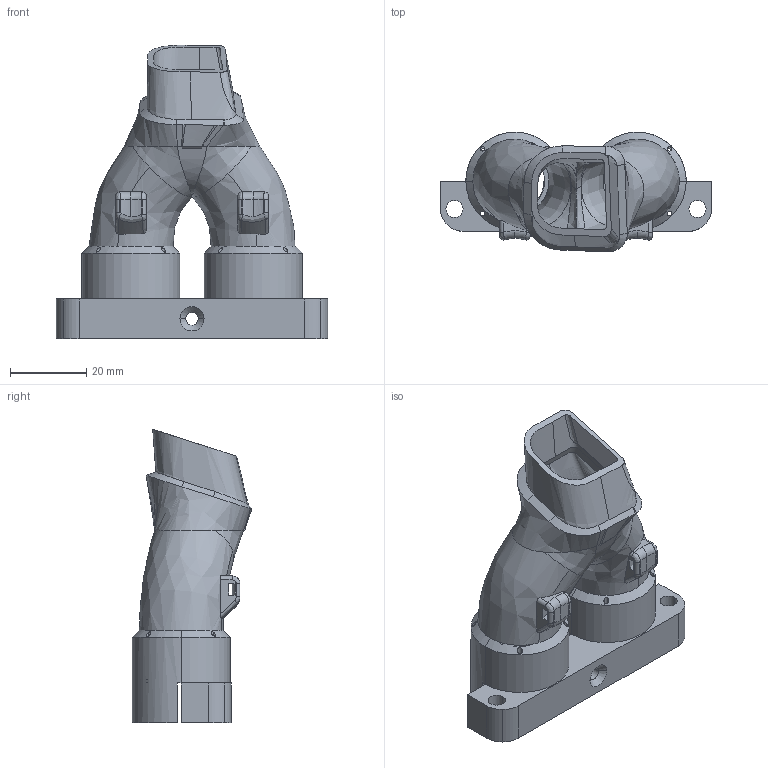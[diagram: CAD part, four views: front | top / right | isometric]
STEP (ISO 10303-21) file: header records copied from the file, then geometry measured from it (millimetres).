
FILE_DESCRIPTION (( 'STEP AP214' ), '1' );
FILE_NAME ('Ñáîðêà5.STEP', '2026-03-03T17:36:22', ( '' ), ( '' ), 'SwSTEP 2.0', 'SolidWorks 2025', '' );
FILE_SCHEMA (( 'AUTOMOTIVE_DESIGN' ));
Length unit declared in the file: millimetre
Products named in the file (1): Сборка5
Bounding box: 71 x 31.39 x 76.78 mm (x, y, z)
Volume: 26747.9 mm3; surface area: 20789.2 mm2
Topology: 1 solids, 1 shells, 290 faces, 887 edges, 593 vertices
Faces by surface type: cylinder 130, bspline 70, plane 65, cone 21, torus 4
Entity records: 28294 total; most frequent: CARTESIAN_POINT 20989, ORIENTED_EDGE 1768, DIRECTION 1223, EDGE_CURVE 884, VERTEX_POINT 593, AXIS2_PLACEMENT_3D 475, B_SPLINE_CURVE_WITH_KNOTS 340, EDGE_LOOP 319
